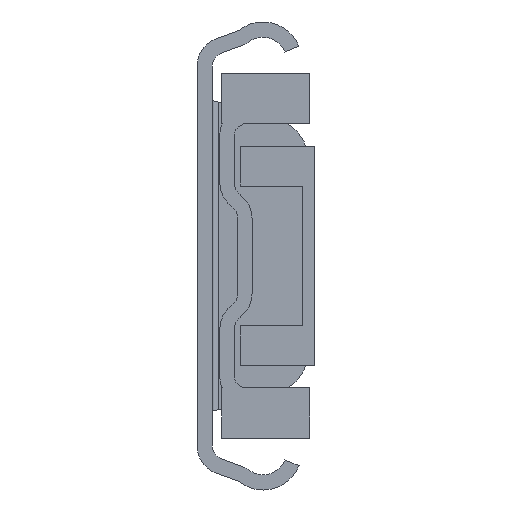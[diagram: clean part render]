
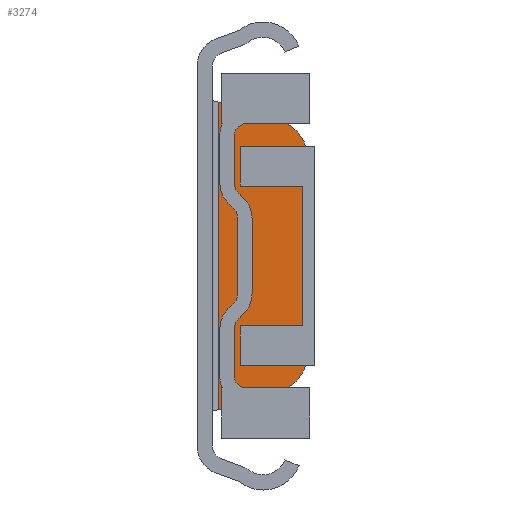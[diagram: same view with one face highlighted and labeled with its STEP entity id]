
A CAD part, front view. The second image highlights one B-rep face of the part: STEP entity #3274.
In plain terms, the highlighted planar face has unit normal (0, -1, 0).
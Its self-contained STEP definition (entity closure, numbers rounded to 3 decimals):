
#109=PLANE('',#3915);
#377=LINE('',#5645,#708);
#378=LINE('',#5650,#709);
#379=LINE('',#5654,#710);
#380=LINE('',#5656,#711);
#708=VECTOR('',#4674,1000.);
#709=VECTOR('',#4677,1000.);
#710=VECTOR('',#4680,1000.);
#711=VECTOR('',#4681,1000.);
#1459=ORIENTED_EDGE('',*,*,#2077,.F.);
#1460=ORIENTED_EDGE('',*,*,#2078,.F.);
#1461=ORIENTED_EDGE('',*,*,#2079,.F.);
#1462=ORIENTED_EDGE('',*,*,#2080,.F.);
#1463=ORIENTED_EDGE('',*,*,#2081,.F.);
#1464=ORIENTED_EDGE('',*,*,#2082,.F.);
#2077=EDGE_CURVE('',#2444,#2445,#377,.T.);
#2078=EDGE_CURVE('',#2446,#2444,#2630,.F.);
#2079=EDGE_CURVE('',#2447,#2446,#378,.T.);
#2080=EDGE_CURVE('',#2448,#2447,#2631,.F.);
#2081=EDGE_CURVE('',#2449,#2448,#379,.T.);
#2082=EDGE_CURVE('',#2445,#2449,#380,.T.);
#2444=VERTEX_POINT('',#5646);
#2445=VERTEX_POINT('',#5647);
#2446=VERTEX_POINT('',#5649);
#2447=VERTEX_POINT('',#5651);
#2448=VERTEX_POINT('',#5653);
#2449=VERTEX_POINT('',#5655);
#2630=CIRCLE('',#3916,8.);
#2631=CIRCLE('',#3917,8.);
#2817=EDGE_LOOP('',(#1459,#1460,#1461,#1462,#1463,#1464));
#3022=FACE_BOUND('',#2817,.T.);
#3274=ADVANCED_FACE('',(#3022),#109,.T.);
#3915=AXIS2_PLACEMENT_3D('',#5644,#4672,#4673);
#3916=AXIS2_PLACEMENT_3D('',#5648,#4675,#4676);
#3917=AXIS2_PLACEMENT_3D('',#5652,#4678,#4679);
#4672=DIRECTION('',(0.,-1.,0.));
#4673=DIRECTION('',(0.,0.,-1.));
#4674=DIRECTION('',(-0.966,0.,-0.259));
#4675=DIRECTION('',(0.,-1.,0.));
#4676=DIRECTION('',(0.,0.,-1.));
#4677=DIRECTION('',(0.,0.,-1.));
#4678=DIRECTION('',(0.,-1.,0.));
#4679=DIRECTION('',(0.,0.,-1.));
#4680=DIRECTION('',(0.966,0.,-0.259));
#4681=DIRECTION('',(0.,0.,1.));
#5644=CARTESIAN_POINT('',(12.9,403.9,14.965));
#5645=CARTESIAN_POINT('',(22.316,403.9,-20.174));
#5646=CARTESIAN_POINT('',(12.471,403.9,-22.812));
#5647=CARTESIAN_POINT('',(3.5,403.9,-25.216));
#5648=CARTESIAN_POINT('',(10.4,403.9,-15.085));
#5649=CARTESIAN_POINT('',(18.4,403.9,-15.085));
#5650=CARTESIAN_POINT('',(18.4,403.9,14.965));
#5651=CARTESIAN_POINT('',(18.4,403.9,15.085));
#5652=CARTESIAN_POINT('',(10.4,403.9,15.085));
#5653=CARTESIAN_POINT('',(12.471,403.9,22.812));
#5654=CARTESIAN_POINT('',(14.833,403.9,22.179));
#5655=CARTESIAN_POINT('',(3.5,403.9,25.216));
#5656=CARTESIAN_POINT('',(3.5,403.9,-25.766));
